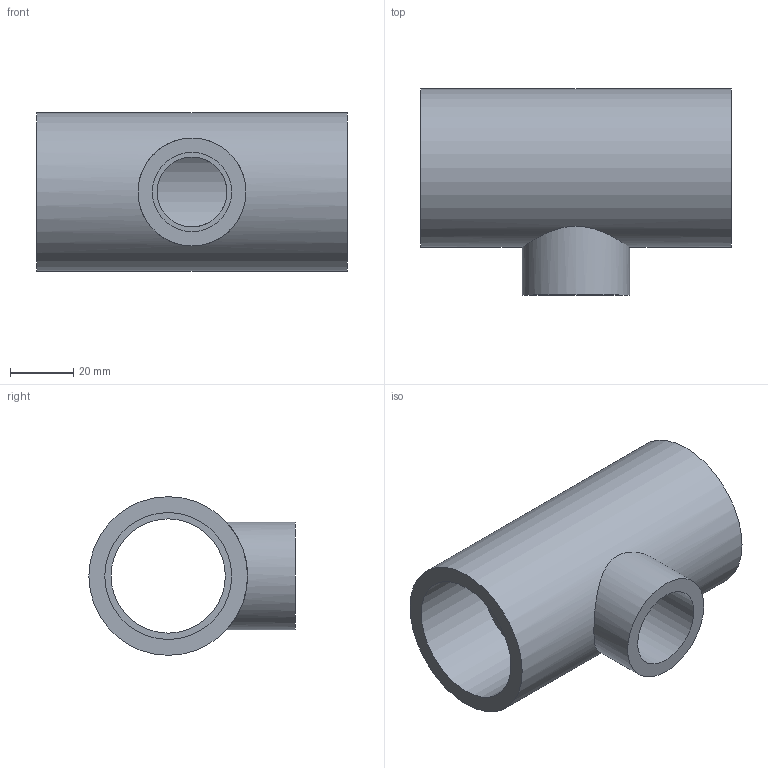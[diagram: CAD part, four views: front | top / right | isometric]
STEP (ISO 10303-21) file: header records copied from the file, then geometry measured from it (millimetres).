
FILE_DESCRIPTION(/* description */ ('PVC ti a 90° ridotto incollaggio metrico'),/* implementation_level */ '2;1');
FILE_NAME(/* name */ 'C:\Users\POLYPIPE\Desktop\DATASET INVENTOR\LIBRERIA EFFAST\RACCORDI 3DxWEB\RDR\3D_RDRTRD\3D_RDRTRD040C.stp',/* time_stamp */ '2018-01-19T15:46:13+01:00',/* author */ ('POLYPIPE'),/* organization */ ('Polypipe Italia s.r.l.'),/* preprocessor_version */ 'ST-DEVELOPER v16.1',/* originating_system */ 'Autodesk Inventor 2016',/* authorisation */ '');
FILE_SCHEMA (('CONFIG_CONTROL_DESIGN'));
Length unit declared in the file: millimetre
Products named in the file (1): 3D_RDRTRD
Bounding box: 98 x 65 x 50 mm (x, y, z)
Volume: 84011.4 mm3; surface area: 31974.7 mm2
Topology: 1 solids, 1 shells, 13 faces, 23 edges, 16 vertices
Faces by surface type: cylinder 7, plane 6
Full cylindrical faces by diameter (mm): 22 x1, 25 x1, 34 x1, 36 x1, 40 x2, 50 x1
Entity records: 398 total; most frequent: CARTESIAN_POINT 140, DIRECTION 52, EDGE_LOOP 28, ORIENTED_EDGE 28, AXIS2_PLACEMENT_3D 26, FACE_BOUND 15, VERTEX_POINT 14, EDGE_CURVE 14
